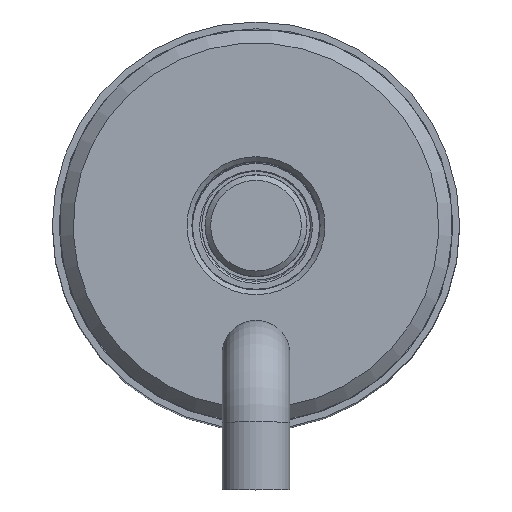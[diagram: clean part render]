
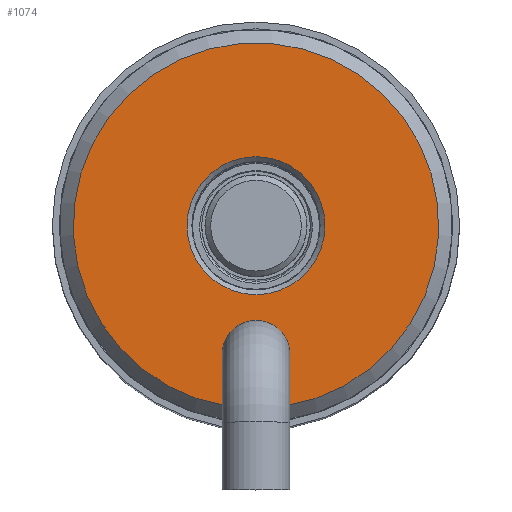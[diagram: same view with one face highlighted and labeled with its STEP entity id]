
A CAD part, top view. The second image highlights one B-rep face of the part: STEP entity #1074.
In plain terms, the highlighted planar face has unit normal (0, 0, 1).
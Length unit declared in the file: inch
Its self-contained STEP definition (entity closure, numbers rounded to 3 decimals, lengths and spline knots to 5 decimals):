
#78=FACE_BOUND('',#214,.T.);
#116=PLANE('',#1254);
#145=FACE_OUTER_BOUND('',#213,.T.);
#213=EDGE_LOOP('',(#719,#720,#721,#722,#723));
#214=EDGE_LOOP('',(#724));
#294=LINE('',#1700,#344);
#297=LINE('',#1710,#347);
#344=VECTOR('',#1401,0.3937);
#347=VECTOR('',#1406,0.3937);
#396=CIRCLE('',#1249,0.0625);
#398=CIRCLE('',#1251,0.0625);
#399=CIRCLE('',#1255,0.3365);
#400=CIRCLE('',#1256,0.127);
#448=VERTEX_POINT('',#1686);
#449=VERTEX_POINT('',#1688);
#452=VERTEX_POINT('',#1694);
#453=VERTEX_POINT('',#1699);
#456=VERTEX_POINT('',#1709);
#457=VERTEX_POINT('',#1712);
#550=EDGE_CURVE('',#449,#448,#396,.T.);
#554=EDGE_CURVE('',#448,#452,#398,.T.);
#555=EDGE_CURVE('',#453,#449,#294,.T.);
#559=EDGE_CURVE('',#452,#456,#297,.T.);
#560=EDGE_CURVE('',#453,#456,#399,.T.);
#561=EDGE_CURVE('',#457,#457,#400,.T.);
#719=ORIENTED_EDGE('',*,*,#550,.T.);
#720=ORIENTED_EDGE('',*,*,#554,.T.);
#721=ORIENTED_EDGE('',*,*,#559,.T.);
#722=ORIENTED_EDGE('',*,*,#560,.F.);
#723=ORIENTED_EDGE('',*,*,#555,.T.);
#724=ORIENTED_EDGE('',*,*,#561,.T.);
#1074=ADVANCED_FACE('',(#145,#78),#116,.T.);
#1249=AXIS2_PLACEMENT_3D('',#1689,#1389,#1390);
#1251=AXIS2_PLACEMENT_3D('',#1696,#1395,#1396);
#1254=AXIS2_PLACEMENT_3D('',#1708,#1404,#1405);
#1255=AXIS2_PLACEMENT_3D('',#1711,#1407,#1408);
#1256=AXIS2_PLACEMENT_3D('',#1713,#1409,#1410);
#1389=DIRECTION('center_axis',(0.,0.,
-1.));
#1390=DIRECTION('ref_axis',(1.,0.,0.));
#1395=DIRECTION('center_axis',(0.,0.,
-1.));
#1396=DIRECTION('ref_axis',(1.,0.,0.));
#1401=DIRECTION('',(0.,1.,0.));
#1404=DIRECTION('center_axis',(0.,0.,
1.));
#1405=DIRECTION('ref_axis',(1.,0.,0.));
#1406=DIRECTION('',(0.,-1.,0.));
#1407=DIRECTION('center_axis',(0.,0.,
-1.));
#1408=DIRECTION('ref_axis',(-1.,0.,0.));
#1409=DIRECTION('center_axis',(0.,0.,
-1.));
#1410=DIRECTION('ref_axis',(-1.,0.,0.));
#1686=CARTESIAN_POINT('',(-0.0625,-0.237,1.37));
#1688=CARTESIAN_POINT('',(-0.053,-0.27012,1.37));
#1689=CARTESIAN_POINT('Origin',(0.,-0.237,1.37));
#1694=CARTESIAN_POINT('',(0.053,-0.27012,1.37));
#1696=CARTESIAN_POINT('Origin',(0.,-0.237,1.37));
#1699=CARTESIAN_POINT('',(-0.053,-0.3323,1.37));
#1700=CARTESIAN_POINT('',(-0.053,0.04975,1.37));
#1708=CARTESIAN_POINT('Origin',(0.,0.3365,1.37));
#1709=CARTESIAN_POINT('',(0.053,-0.3323,1.37));
#1710=CARTESIAN_POINT('',(0.053,-0.01055,1.37));
#1711=CARTESIAN_POINT('Origin',(0.,0.,
1.37));
#1712=CARTESIAN_POINT('',(0.,-0.127,1.37));
#1713=CARTESIAN_POINT('Origin',(0.,0.,
1.37));
